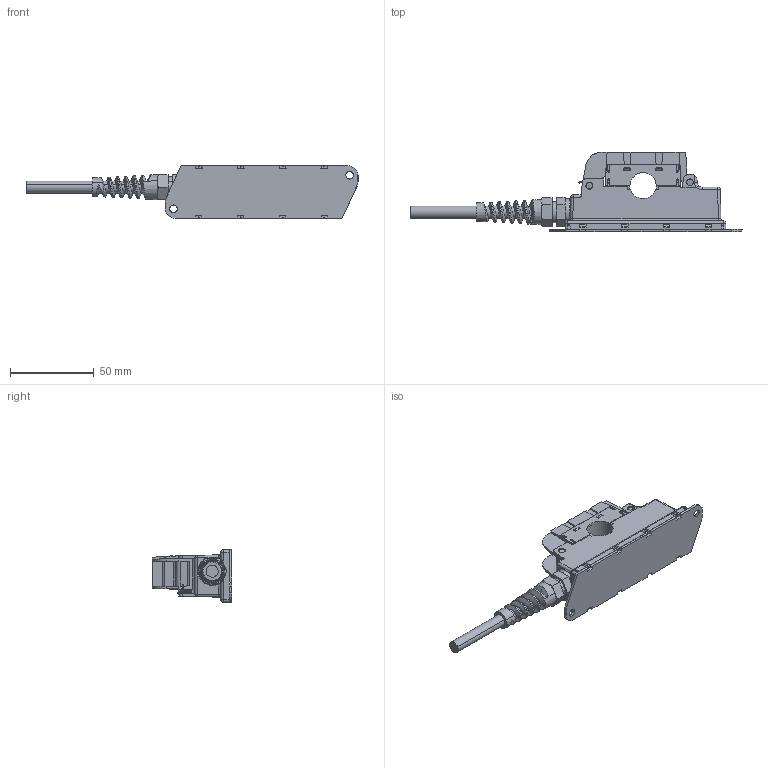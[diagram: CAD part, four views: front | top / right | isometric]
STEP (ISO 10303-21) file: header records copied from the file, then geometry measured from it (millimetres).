
FILE_DESCRIPTION(('Creo Elements/Direct Modeling STEP Export'),'2;1');
FILE_NAME('PCM 10-P black box.stp','2013-05-13T11:30:56',(''),(''),'Creo Elements/Direct Modeling STEP processor for AP214 (Solid Model)','Creo Elements/Direct Modeling 17.0C 05-Feb-2011 (C) Parametric Technology GmbH','');
FILE_SCHEMA(('AUTOMOTIVE_DESIGN { 1 0 10303 214 1 1 1 1 }'));
Products named in the file (2): semelle_modifier.1.1
Assembly tree (1 placements, depth 2):
  semelle_modifier.1.1
    semelle_modifier.1.1
Bounding box: 197.95 x 47.51 x 32 mm (x, y, z)
Surface area: 51160.1 mm2 (no closed solid volume)
Topology: 0 solids, 4 shells, 1309 faces, 3703 edges, 2329 vertices
Faces by surface type: plane 769, cylinder 340, cone 66, bspline 63, sphere 45, torus 26
Entity records: 78597 total; most frequent: CARTESIAN_POINT 46732, ORIENTED_EDGE 7355, DIRECTION 5637, EDGE_CURVE 3662, VERTEX_POINT 2329, VECTOR 2309, LINE 2309, AXIS2_PLACEMENT_3D 1664
